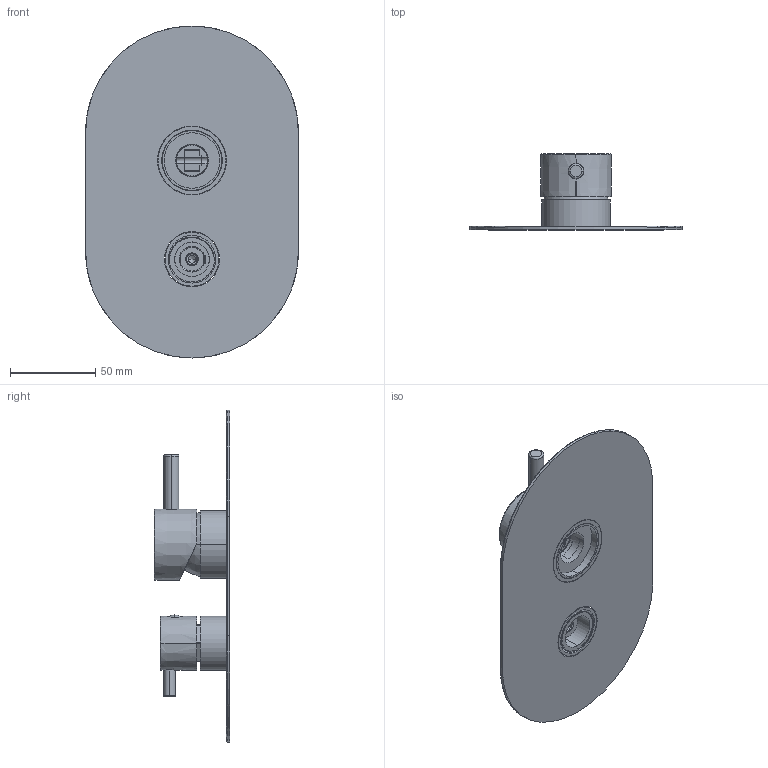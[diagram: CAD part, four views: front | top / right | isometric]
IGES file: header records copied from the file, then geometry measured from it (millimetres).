
Start section:  PTC IGES file: 12531.igs
Global section: file name: 12531.igs; native system: Creo Parametric by PTC Inc.; preprocessor: 2022014; author: carloff; organization: Unknown; date: 20240319.135843; units: millimetre
Bounding box: 125 x 44.5 x 195 mm (x, y, z)
Surface area: 86133.3 mm2 (no closed solid volume)
Topology: 0 solids, 0 shells, 907 faces, 5062 edges, 5036 vertices
Faces by surface type: revolution 542, bspline 365
